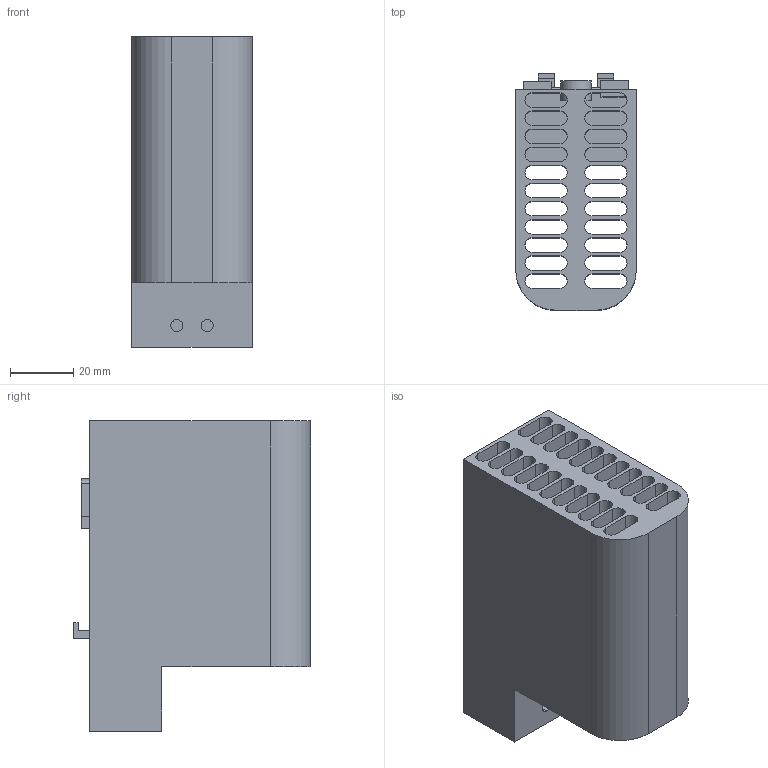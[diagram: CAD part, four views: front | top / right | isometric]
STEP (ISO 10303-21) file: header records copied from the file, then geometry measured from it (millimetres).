
FILE_DESCRIPTION (( 'STEP AP203' ), '1' );
FILE_NAME ('25923.STEP', '2012-05-16T19:30:18', ( 'User' ), ( 'Pentair Inc' ), 'SwSTEP 2.0', 'SolidWorks 2010', '' );
FILE_SCHEMA (( 'CONFIG_CONTROL_DESIGN' ));
Length unit declared in the file: inch
Products named in the file (2): 25923; 89088451
Assembly tree (1 placements, depth 2):
  25923
    89088451
Bounding box: 38.1 x 74.93 x 98.04 mm (x, y, z)
Volume: 123291 mm3; surface area: 77496.8 mm2
Topology: 1 solids, 1 shells, 239 faces, 654 edges, 432 vertices
Faces by surface type: plane 142, cylinder 88, bspline 9
Entity records: 8008 total; most frequent: CARTESIAN_POINT 1538, DIRECTION 1311, ORIENTED_EDGE 1308, EDGE_CURVE 654, LINE 445, VECTOR 445, AXIS2_PLACEMENT_3D 433, VERTEX_POINT 432
